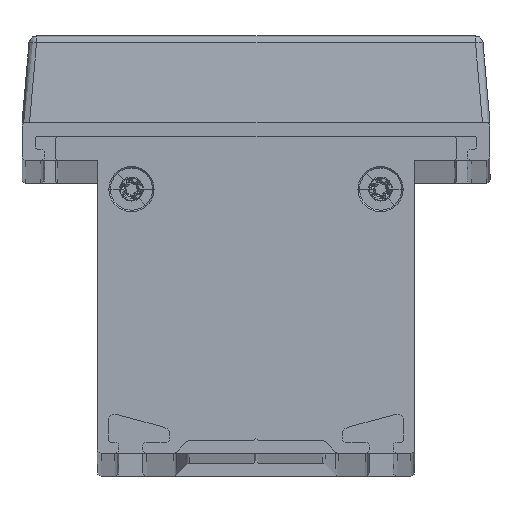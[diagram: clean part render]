
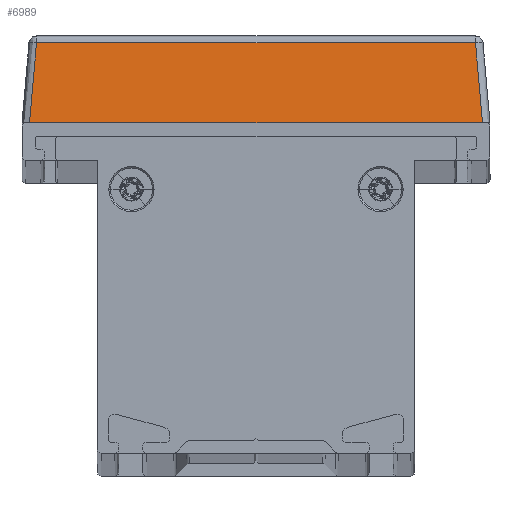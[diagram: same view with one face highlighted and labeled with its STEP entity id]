
A CAD part, top view. The second image highlights one B-rep face of the part: STEP entity #6989.
In plain terms, the highlighted planar face has unit normal (0, 0.087, 0.996) as drawn and (-0.996, 0.087, 0) by its records, which use the part's own axes.
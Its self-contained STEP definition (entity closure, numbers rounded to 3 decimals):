
#267 = CARTESIAN_POINT ( 'NONE',  ( -143.5, 0., 31. ) ) ;
#473 = CARTESIAN_POINT ( 'NONE',  ( -143.5, 0., -30.004 ) ) ;
#597 = ORIENTED_EDGE ( 'NONE', *, *, #8262, .T. ) ;
#627 = LINE ( 'NONE', #5834, #6367 ) ;
#825 = VECTOR ( 'NONE', #3633, 1000. ) ;
#902 = VERTEX_POINT ( 'NONE', #473 ) ;
#1001 = FACE_OUTER_BOUND ( 'NONE', #4139, .T. ) ;
#1161 = CARTESIAN_POINT ( 'NONE',  ( -143.04, 5.257, -29.544 ) ) ;
#1421 = DIRECTION ( 'NONE',  ( -0.087, -0.992, -0.087 ) ) ;
#1856 = VERTEX_POINT ( 'NONE', #7200 ) ;
#2456 = ORIENTED_EDGE ( 'NONE', *, *, #4818, .T. ) ;
#2860 = CARTESIAN_POINT ( 'NONE',  ( -143.508, -0.086, 30.011 ) ) ;
#3276 = DIRECTION ( 'NONE',  ( -0.996, 0.087, 0. ) ) ;
#3452 = AXIS2_PLACEMENT_3D ( 'NONE', #267, #3276, #8422 ) ;
#3478 = ORIENTED_EDGE ( 'NONE', *, *, #6593, .T. ) ;
#3633 = DIRECTION ( 'NONE',  ( 0.087, 0.992, -0.087 ) ) ;
#3637 = EDGE_CURVE ( 'NONE', #902, #1856, #627, .T. ) ;
#4132 = DIRECTION ( 'NONE',  ( 0., 0., -1. ) ) ;
#4139 = EDGE_LOOP ( 'NONE', ( #6553, #597, #3478, #2456 ) ) ;
#4144 = CARTESIAN_POINT ( 'NONE',  ( -142.574, 10.587, 29.078 ) ) ;
#4818 = EDGE_CURVE ( 'NONE', #8413, #902, #8955, .T. ) ;
#5038 = LINE ( 'NONE', #2860, #825 ) ;
#5760 = DIRECTION ( 'NONE',  ( 0., 0., 1. ) ) ;
#5834 = CARTESIAN_POINT ( 'NONE',  ( -143.5, 0., 31. ) ) ;
#6241 = PLANE ( 'NONE',  #3452 ) ;
#6367 = VECTOR ( 'NONE', #5760, 1000. ) ;
#6377 = VECTOR ( 'NONE', #4132, 1000. ) ;
#6553 = ORIENTED_EDGE ( 'NONE', *, *, #3637, .T. ) ;
#6593 = EDGE_CURVE ( 'NONE', #9491, #8413, #6834, .T. ) ;
#6834 = LINE ( 'NONE', #9244, #6377 ) ;
#6989 = ADVANCED_FACE ( 'NONE', ( #1001 ), #6241, .T. ) ;
#7018 = VECTOR ( 'NONE', #1421, 1000. ) ;
#7200 = CARTESIAN_POINT ( 'NONE',  ( -143.5, 0., 30.004 ) ) ;
#8262 = EDGE_CURVE ( 'NONE', #1856, #9491, #5038, .T. ) ;
#8413 = VERTEX_POINT ( 'NONE', #9044 ) ;
#8422 = DIRECTION ( 'NONE',  ( -0.087, -0.996, 0. ) ) ;
#8955 = LINE ( 'NONE', #1161, #7018 ) ;
#9044 = CARTESIAN_POINT ( 'NONE',  ( -142.574, 10.587, -29.078 ) ) ;
#9244 = CARTESIAN_POINT ( 'NONE',  ( -142.574, 10.587, -29.994 ) ) ;
#9491 = VERTEX_POINT ( 'NONE', #4144 ) ;
